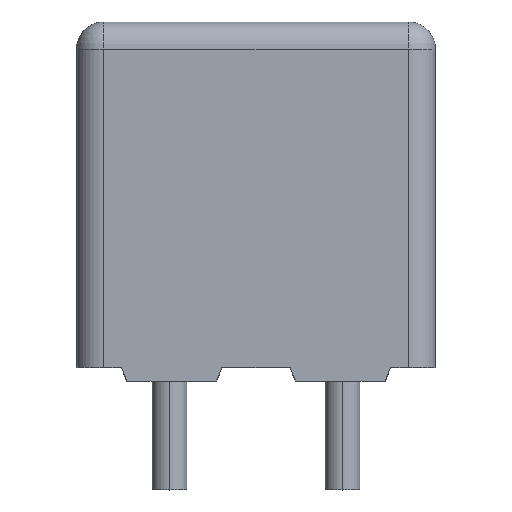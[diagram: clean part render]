
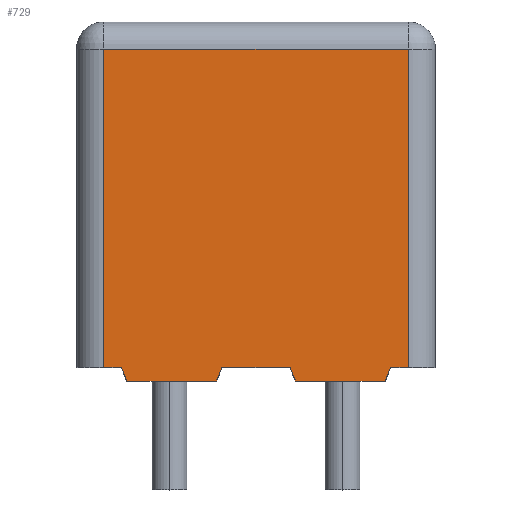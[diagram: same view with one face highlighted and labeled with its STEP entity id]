
A CAD part, top view. The second image highlights one B-rep face of the part: STEP entity #729.
In plain terms, the highlighted planar face has unit normal (0, 0, 1).
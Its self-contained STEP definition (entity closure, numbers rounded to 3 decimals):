
#446 = CARTESIAN_POINT ( 'NONE',  ( -2.375, 0., 1.715 ) ) ;
#447 = VERTEX_POINT ( 'NONE', #446 ) ;
#462 = CARTESIAN_POINT ( 'NONE',  ( -0.725, 0., 1.715 ) ) ;
#463 = VERTEX_POINT ( 'NONE', #462 ) ;
#470 = CARTESIAN_POINT ( 'NONE',  ( -3.3, 0., 1.715 ) ) ;
#471 = DIRECTION ( 'NONE',  ( 1., 0., 0. ) ) ;
#472 = VECTOR ( 'NONE', #471, 1000. ) ;
#473 = LINE ( 'NONE', #470, #472 ) ;
#474 = EDGE_CURVE ( 'NONE', #447, #463, #473, .T. ) ;
#526 = CARTESIAN_POINT ( 'NONE',  ( 0.725, 0., 1.715 ) ) ;
#527 = VERTEX_POINT ( 'NONE', #526 ) ;
#542 = CARTESIAN_POINT ( 'NONE',  ( 2.375, 0., 1.715 ) ) ;
#543 = VERTEX_POINT ( 'NONE', #542 ) ;
#550 = CARTESIAN_POINT ( 'NONE',  ( -3.3, 0., 1.715 ) ) ;
#551 = DIRECTION ( 'NONE',  ( 1., 0., 0. ) ) ;
#552 = VECTOR ( 'NONE', #551, 1000. ) ;
#553 = LINE ( 'NONE', #550, #552 ) ;
#554 = EDGE_CURVE ( 'NONE', #527, #543, #553, .T. ) ;
#644 = CARTESIAN_POINT ( 'NONE',  ( 2.8, 0.25, 1.715 ) ) ;
#645 = VERTEX_POINT ( 'NONE', #644 ) ;
#646 = CARTESIAN_POINT ( 'NONE',  ( 2.475, 0.25, 1.715 ) ) ;
#647 = VERTEX_POINT ( 'NONE', #646 ) ;
#648 = CARTESIAN_POINT ( 'NONE',  ( 3.3, 0.25, 1.715 ) ) ;
#649 = DIRECTION ( 'NONE',  ( -1., 0., 0. ) ) ;
#650 = VECTOR ( 'NONE', #649, 1000. ) ;
#651 = LINE ( 'NONE', #648, #650 ) ;
#652 = EDGE_CURVE ( 'NONE', #645, #647, #651, .T. ) ;
#653 = ORIENTED_EDGE ( 'NONE', *, *, #652, .F. ) ;
#654 = CARTESIAN_POINT ( 'NONE',  ( 2.8, 6.1, 1.715 ) ) ;
#655 = VERTEX_POINT ( 'NONE', #654 ) ;
#656 = CARTESIAN_POINT ( 'NONE',  ( 2.8, 6.6, 1.715 ) ) ;
#657 = DIRECTION ( 'NONE',  ( 0., 1., 0. ) ) ;
#658 = VECTOR ( 'NONE', #657, 1000. ) ;
#659 = LINE ( 'NONE', #656, #658 ) ;
#660 = EDGE_CURVE ( 'NONE', #645, #655, #659, .T. ) ;
#661 = ORIENTED_EDGE ( 'NONE', *, *, #660, .T. ) ;
#662 = CARTESIAN_POINT ( 'NONE',  ( -2.8, 6.1, 1.715 ) ) ;
#663 = VERTEX_POINT ( 'NONE', #662 ) ;
#664 = CARTESIAN_POINT ( 'NONE',  ( -3.3, 6.1, 1.715 ) ) ;
#665 = DIRECTION ( 'NONE',  ( -1., 0., 0. ) ) ;
#666 = VECTOR ( 'NONE', #665, 1000. ) ;
#667 = LINE ( 'NONE', #664, #666 ) ;
#668 = EDGE_CURVE ( 'NONE', #655, #663, #667, .T. ) ;
#669 = ORIENTED_EDGE ( 'NONE', *, *, #668, .T. ) ;
#670 = CARTESIAN_POINT ( 'NONE',  ( -2.8, 0.25, 1.715 ) ) ;
#671 = VERTEX_POINT ( 'NONE', #670 ) ;
#672 = CARTESIAN_POINT ( 'NONE',  ( -2.8, 0.25, 1.715 ) ) ;
#673 = DIRECTION ( 'NONE',  ( 0., -1., 0. ) ) ;
#674 = VECTOR ( 'NONE', #673, 1000. ) ;
#675 = LINE ( 'NONE', #672, #674 ) ;
#676 = EDGE_CURVE ( 'NONE', #663, #671, #675, .T. ) ;
#677 = ORIENTED_EDGE ( 'NONE', *, *, #676, .T. ) ;
#678 = CARTESIAN_POINT ( 'NONE',  ( -2.475, 0.25, 1.715 ) ) ;
#679 = VERTEX_POINT ( 'NONE', #678 ) ;
#680 = CARTESIAN_POINT ( 'NONE',  ( -3.3, 0.25, 1.715 ) ) ;
#681 = DIRECTION ( 'NONE',  ( -1., 0., 0. ) ) ;
#682 = VECTOR ( 'NONE', #681, 1000. ) ;
#683 = LINE ( 'NONE', #680, #682 ) ;
#684 = EDGE_CURVE ( 'NONE', #679, #671, #683, .T. ) ;
#685 = ORIENTED_EDGE ( 'NONE', *, *, #684, .F. ) ;
#686 = CARTESIAN_POINT ( 'NONE',  ( -2.475, 0.25, 1.715 ) ) ;
#687 = DIRECTION ( 'NONE',  ( -0.383, 0.924, 0. ) ) ;
#688 = VECTOR ( 'NONE', #687, 1000. ) ;
#689 = LINE ( 'NONE', #686, #688 ) ;
#690 = EDGE_CURVE ( 'NONE', #447, #679, #689, .T. ) ;
#691 = ORIENTED_EDGE ( 'NONE', *, *, #690, .F. ) ;
#692 = ORIENTED_EDGE ( 'NONE', *, *, #474, .T. ) ;
#693 = CARTESIAN_POINT ( 'NONE',  ( -0.625, 0.25, 1.715 ) ) ;
#694 = VERTEX_POINT ( 'NONE', #693 ) ;
#695 = CARTESIAN_POINT ( 'NONE',  ( -0.625, 0.25, 1.715 ) ) ;
#696 = DIRECTION ( 'NONE',  ( -0.383, -0.924, 0. ) ) ;
#697 = VECTOR ( 'NONE', #696, 1000. ) ;
#698 = LINE ( 'NONE', #695, #697 ) ;
#699 = EDGE_CURVE ( 'NONE', #694, #463, #698, .T. ) ;
#700 = ORIENTED_EDGE ( 'NONE', *, *, #699, .F. ) ;
#701 = CARTESIAN_POINT ( 'NONE',  ( 0.625, 0.25, 1.715 ) ) ;
#702 = VERTEX_POINT ( 'NONE', #701 ) ;
#703 = CARTESIAN_POINT ( 'NONE',  ( 0.625, 0.25, 1.715 ) ) ;
#704 = DIRECTION ( 'NONE',  ( -1., 0., 0. ) ) ;
#705 = VECTOR ( 'NONE', #704, 1000. ) ;
#706 = LINE ( 'NONE', #703, #705 ) ;
#707 = EDGE_CURVE ( 'NONE', #702, #694, #706, .T. ) ;
#708 = ORIENTED_EDGE ( 'NONE', *, *, #707, .F. ) ;
#709 = CARTESIAN_POINT ( 'NONE',  ( 0.625, 0.25, 1.715 ) ) ;
#710 = DIRECTION ( 'NONE',  ( -0.383, 0.924, 0. ) ) ;
#711 = VECTOR ( 'NONE', #710, 1000. ) ;
#712 = LINE ( 'NONE', #709, #711 ) ;
#713 = EDGE_CURVE ( 'NONE', #527, #702, #712, .T. ) ;
#714 = ORIENTED_EDGE ( 'NONE', *, *, #713, .F. ) ;
#715 = ORIENTED_EDGE ( 'NONE', *, *, #554, .T. ) ;
#716 = CARTESIAN_POINT ( 'NONE',  ( 2.475, 0.25, 1.715 ) ) ;
#717 = DIRECTION ( 'NONE',  ( -0.383, -0.924, 0. ) ) ;
#718 = VECTOR ( 'NONE', #717, 1000. ) ;
#719 = LINE ( 'NONE', #716, #718 ) ;
#720 = EDGE_CURVE ( 'NONE', #647, #543, #719, .T. ) ;
#721 = ORIENTED_EDGE ( 'NONE', *, *, #720, .F. ) ;
#722 = EDGE_LOOP ( 'NONE', ( #653, #661, #669, #677, #685, #691, #692, #700, #708, #714, #715, #721 ) ) ;
#723 = FACE_OUTER_BOUND ( 'NONE', #722, .T. ) ;
#724 = CARTESIAN_POINT ( 'NONE',  ( -3.3, 0., 1.715 ) ) ;
#725 = DIRECTION ( 'NONE',  ( 0., 0., 1. ) ) ;
#726 = DIRECTION ( 'NONE',  ( 1., 0., 0. ) ) ;
#727 = AXIS2_PLACEMENT_3D ( 'NONE', #724, #725, #726 ) ;
#728 = PLANE ( 'NONE', #727 ) ;
#729 = ADVANCED_FACE ( 'NONE', ( #723 ), #728, .T. ) ;
